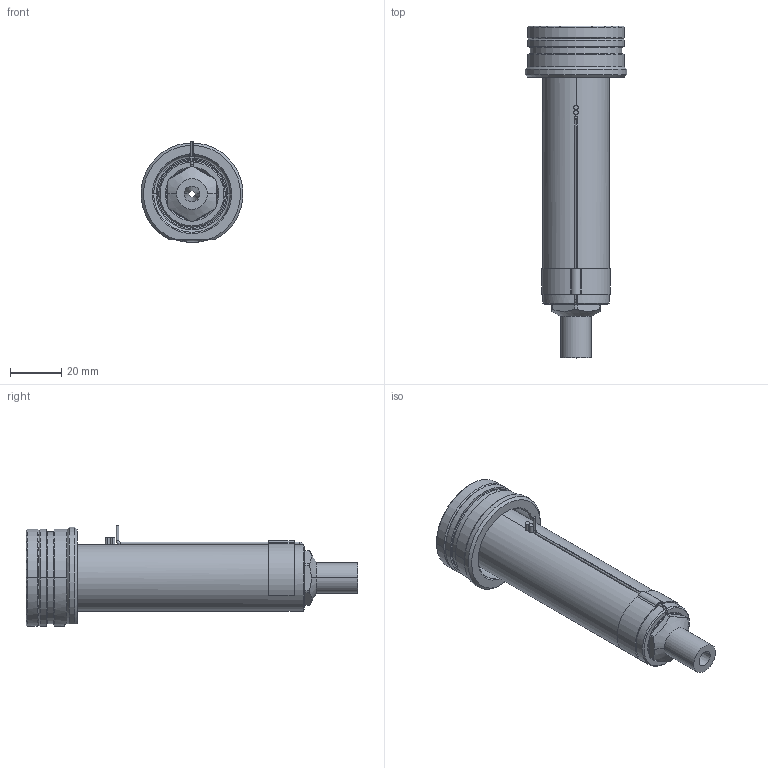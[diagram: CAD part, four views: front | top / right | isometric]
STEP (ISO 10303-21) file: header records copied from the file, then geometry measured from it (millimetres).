
FILE_DESCRIPTION((''),'2;1');
FILE_NAME('EO08_SG_ESG_100_SW','2024-02-19T12:22:05',('sundharh'),(''),'CREO PARAMETRIC BY PTC INC, 2023154','CREO PARAMETRIC BY PTC INC, 2023154','');
FILE_SCHEMA(('CONFIG_CONTROL_DESIGN'));
Length unit declared in the file: millimetre
Products named in the file (1): EO08_SG_ESG_100_SW
Bounding box: 39.88 x 130 x 39.52 mm (x, y, z)
Volume: 64916.9 mm3; surface area: 19232.2 mm2
Topology: 1 solids, 1 shells, 168 faces, 419 edges, 257 vertices
Faces by surface type: cylinder 64, plane 45, cone 33, torus 19, bspline 4, sphere 3
Entity records: 6188 total; most frequent: CARTESIAN_POINT 2093, DIRECTION 901, ORIENTED_EDGE 830, EDGE_CURVE 415, AXIS2_PLACEMENT_3D 373, VERTEX_POINT 257, CIRCLE 209, EDGE_LOOP 184
